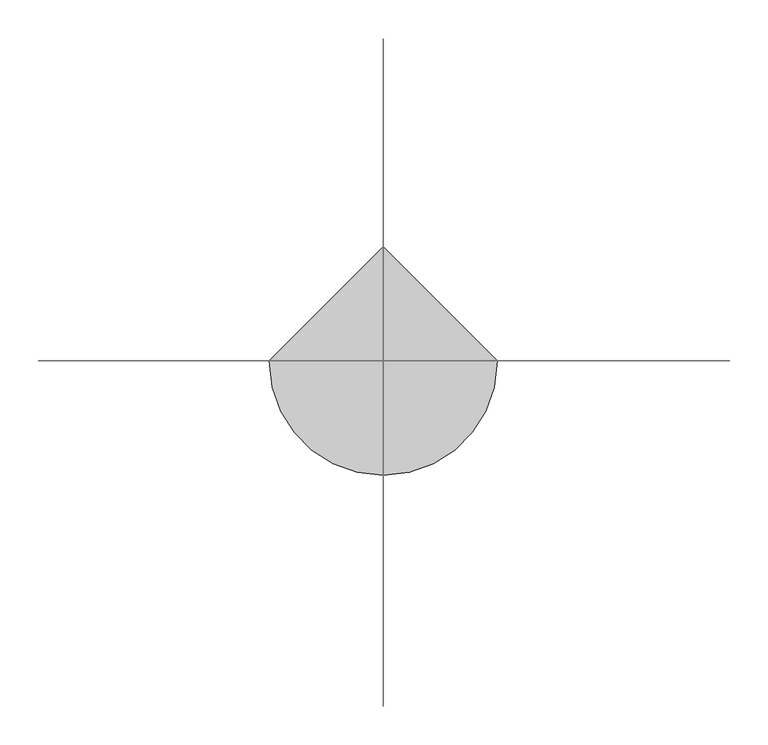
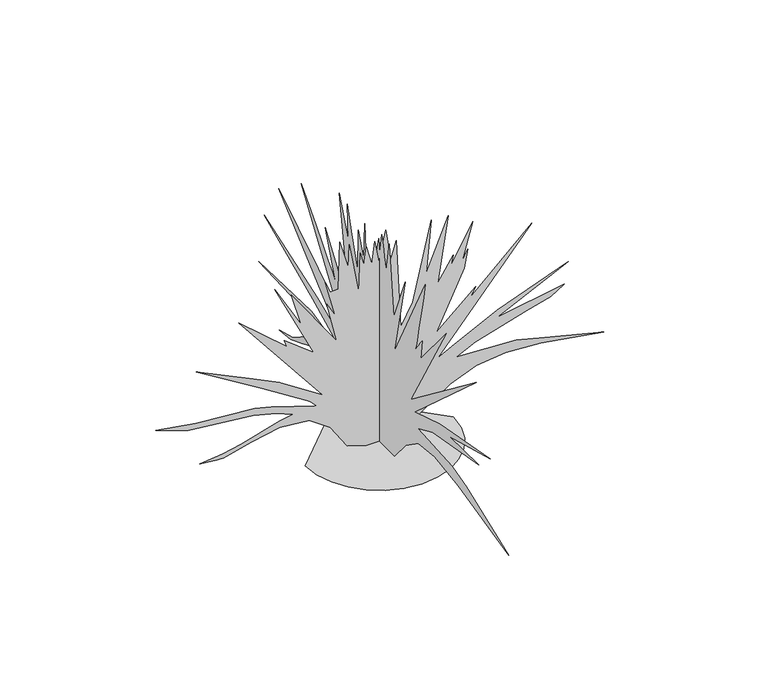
"""IFC4 building model written with IfcOpenShell, lengths in millimetres: geographic element geometry, RPC Vegetação - Tropical : Piteira - 0,45 metros."""

from ifc_helpers import new_model, si_unit, origin, place, context, project, spatial, triangles, source, transform, mapped, element, save


def geographic_element_1685f993(model_context):
    return source(origin(), model_context, "Body", "Tessellation", [
        triangles([(-148.1386958, 0.0, 9.3e-06), (-144.2171964, -33.9885277, 9.3e-06), (-133.048683, -65.2018023, 9.3e-06), (-115.5276685, -92.7450748, 9.3e-06), (-92.5484025, -115.7243407, 9.3e-06), (-65.0051301, -133.2453552, 9.3e-06), (-33.7918577, -144.4138686, 9.3e-06), (0.1966776, -148.335368, 9.3e-06), (34.1851976, -144.4138686, 9.3e-06), (65.3984745, -133.2453552, 9.3e-06), (92.941747, -115.7243407, 9.3e-06), (115.921013, -92.7450748, 9.3e-06), (133.4420274, -65.2018023, 9.3e-06), (144.6105409, -33.9885277, 9.3e-06), (148.5320402, 1.3e-05, 9.3e-06), (0.1966516, 148.335368, 9.3e-06), (-24.3504259, 1.1e-06, 2.5e-06), (-64.1988793, 2e-06, 12.9348607), (-97.895905, 5e-07, 64.0713026), (-140.594189, 5e-07, 94.1593235), (-198.9417449, 2.8e-06, 99.5475847), (-255.4485429, 5.9e-06, 87.7748204), (-311.5910826, 9.2e-06, 73.8080584), (-324.2335885, 9.8e-06, 74.3145591), (-359.378609, 1.11e-05, 77.950311), (-313.1035629, 8.8e-06, 82.7858171), (-277.6960585, 6.8e-06, 90.344322), (-199.7057426, 2e-06, 113.0485956), (-172.7469775, 5e-07, 117.942592), (-204.8844963, 1.2e-06, 130.9928583), (-252.5285358, 2.5e-06, 143.4918682), (-382.9561306, 7.4e-06, 157.5558808), (-447.8461741, 8.9e-06, 179.7488939), (-367.8611217, 6.2e-06, 166.4181305), (-249.0960418, 1.6e-06, 156.7231191), (-216.6905162, 6e-07, 148.7013704), (-125.4831837, -1.6e-06, 119.1546001), (-138.0646922, -1.9e-06, 133.1736118), (-234.3990283, -1.3e-06, 193.9569111), (-366.6486231, -4e-07, 275.4877267), (-252.1085396, -2.1e-06, 220.5199336), (-200.6204942, -2.9e-06, 195.5036553), (-113.3644194, -3.3e-06, 138.5448591), (-281.816065, -8.5e-06, 349.4127929), (-184.8657327, -7.8e-06, 265.7927153), (-189.7134928, -8.4e-06, 280.3352324), (-131.5426884, -8.2e-06, 234.2839372), (-209.1037518, -1.44e-05, 395.4653234), (-155.7804623, -1.12e-05, 302.1502526), (-176.3827294, -1.45e-05, 372.4403117), (-85.4908937, -1.07e-05, 242.7671948), (-104.8811618, -1.49e-05, 327.6002798), (-87.9146465, -1.39e-05, 297.3027469), (-108.5169137, -1.76e-05, 374.8628019), (-97.9506527, -1.66e-05, 351.3077717), (-81.76514, -1.74e-05, 351.3277923), (-79.4313889, -2.33e-05, 450.0003668), (-62.2313804, -2.06e-05, 390.7203006), (-60.0411253, -2.35e-05, 437.880358), (-40.6511115, -1.79e-05, 330.02277), (-38.2271089, -2.29e-05, 412.4328197), (-30.9558549, -2.16e-05, 384.5578134), (-26.1083514, -2.4e-05, 422.1278312), (-15.2013409, -2.2e-05, 380.9228245), (-9.1419117, -2.5e-05, 426.9753551), (-0.6586671, -2.27e-05, 380.9228245), (12.6721065, -2.7e-05, 443.9403442), (23.5791135, -2.35e-05, 377.2877993), (34.4861967, -2.62e-05, 413.6428476), (42.9694566, -1.54e-05, 227.0126877), (67.2069761, -1.91e-05, 271.8527196), (104.0335027, -3.03e-05, 433.0253491), (93.8687435, -2.34e-05, 323.9627475), (138.4672839, -3.17e-05, 430.0728404), (116.8945182, -2.27e-05, 294.8777314), (148.4037959, -2.69e-05, 343.3552774), (143.5562902, -2.54e-05, 321.5402573), (187.184323, -3.2e-05, 400.312811), (165.3703021, -2.65e-05, 322.7527559), (177.4890573, -2.84e-05, 345.7777677), (170.9330439, -2.58e-05, 308.0802504), (114.4707654, -1.64e-05, 190.6558953), (193.2438187, -2.4e-05, 260.9452096), (181.1248092, -2.22e-05, 240.3434511), (305.9494211, -3.46e-05, 355.4727791), (116.8945182, -1.32e-05, 136.120861), (156.175787, -1.61e-05, 155.588123), (236.8716063, -2.2e-05, 195.5036553), (378.6619886, -3.14e-05, 248.8267087), (235.6598525, -2.1e-05, 179.7488939), (371.0494809, -2.83e-05, 203.1156725), (343.871961, -2.62e-05, 186.8916447), (295.8769073, -2.33e-05, 173.2968894), (192.5770716, -1.7e-05, 143.7823665), (154.4632825, -1.42e-05, 125.2138505), (274.4393895, -1.91e-05, 119.1546001), (331.2944584, -2.07e-05, 104.4295814), (450.1645283, -2.41e-05, 74.3145591), (324.0894476, -1.98e-05, 94.6895782), (253.5743659, -1.7e-05, 99.5105775), (194.5445751, -1.4e-05, 92.6238249), (142.6707883, -1.05e-05, 72.2130568), (85.3409936, -5.7e-06, 33.5950265), (32.7349455, -1.4e-06, 0.0), (0.196672, 19.7673413, 8.9e-06), (0.1966732, 47.0472873, 9.8e-06), (0.1966747, 67.3315551, 19.7666418), (0.1966772, 98.1250789, 58.1885449), (0.1966793, 130.6278551, 79.4465678), (0.1966812, 171.5303912, 83.5105639), (0.1966824, 205.2991693, 71.7218077), (0.1966844, 267.9552104, 45.114788), (0.1966857, 307.0702466, 29.8075238), (0.1966874, 347.7627846, 24.6271691), (0.1966857, 300.5702436, 38.2485329), (0.1966843, 245.8184439, 73.6468083), (0.1966827, 196.7091595, 96.1225757), (0.196681, 158.7086266, 94.9168263), (0.1966826, 185.5584048, 108.6283349), (0.1966859, 252.0827055, 120.1018443), (0.1966936, 419.0128324, 127.5108488), (0.1966855, 235.0574365, 132.4853544), (0.1966818, 162.3476305, 116.8738436), (0.1966792, 117.5043466, 94.9168263), (0.1966819, 157.4268734, 125.6566015), (0.1966862, 230.1374425, 162.6691225), (0.196696, 399.8753377, 236.7079353), (0.1966859, 214.4554237, 174.9013882), (0.1966819, 145.377618, 145.8161177), (0.1966963, 348.9752832, 323.9627475), (0.1966833, 143.900864, 195.427915), (0.1966945, 270.2027113, 382.1353231), (0.1966926, 244.8639419, 353.83527), (0.1966907, 220.4639232, 326.4102725), (0.1966889, 197.940407, 300.737748), (0.1966873, 178.2316355, 277.6927156), (0.196686, 162.2761232, 258.1477059), (0.1966851, 151.0121214, 242.9834425), (0.1966845, 145.377618, 233.0721834), (0.1966896, 187.793897, 339.7177814), (0.196686, 146.5683701, 279.2777206), (0.1966856, 142.6428648, 273.9577147), (0.1966852, 137.8938633, 268.4452241), (0.1966848, 132.4583575, 262.7727143), (0.1966844, 126.4736029, 256.975212), (0.1966839, 120.0768458, 251.0802049), (0.1966835, 113.405596, 245.1219566), (0.196683, 106.5973361, 239.1316973), (0.1966904, 138.1063594, 442.7278456), (0.1966867, 107.8090899, 361.5328016), (0.196689, 111.4448418, 435.4578678), (0.196687, 96.9023247, 386.9828107), (0.1966838, 73.8763092, 315.4802711), (0.1966864, 72.6643101, 403.9478362), (0.196684, 54.4860456, 353.0502889), (0.1966862, 50.8502891, 430.6103439), (0.1966844, 46.5152885, 378.1328058), (0.1966819, 26.6125221, 322.7527559), (0.1966839, 1.1628534, 429.3978453), (0.1966829, -1.2609561, 399.1003123), (0.1966839, -8.4154066, 443.3628722), (0.1966833, -11.789735, 429.27536), (0.1966828, -15.0040374, 415.6178361), (0.1966823, -17.8983397, 402.817818), (0.1966818, -20.312591, 391.3078011), (0.1966815, -22.0867923, 381.5153028), (0.1966812, -23.0609175, 373.8703116), (0.196681, -23.0749678, 368.8028157), (0.1966826, -33.9820282, 439.0928567), (0.1966776, -49.7365399, 293.6677398), (0.1966787, -90.9408244, 393.0428332), (0.1966754, -52.1602928, 222.165182), (0.1966767, -160.0183758, 429.3978453), (0.1966761, -153.4961177, 397.6378289), (0.1966754, -147.1613663, 367.0353001), (0.1966749, -141.2021097, 338.7452754), (0.1966744, -135.8058639, 313.9252424), (0.196674, -131.1606078, 293.7327431), (0.1966737, -127.4541026, 279.3227215), (0.1966736, -124.8736006, 271.8527196), (0.1966736, -124.0245972, 269.8952265), (0.1966736, -125.1655977, 270.9177113), (0.1966735, -127.9646002, 274.4252189), (0.1966735, -132.090611, 279.9202323), (0.1966735, -137.211365, 286.9052347), (0.1966735, -142.995614, 294.8852345), (0.1966734, -149.1113744, 303.3627512), (0.1966725, -143.0521149, 262.1577082), (0.1966717, -232.7319426, 370.0153144), (0.1966708, -109.1190844, 155.5111291), (0.1966659, -335.7427697, 328.8102714), (0.1966697, -122.4498477, 136.1211063), (0.1966666, -209.7059134, 163.9943868), (0.1966597, -385.1278004, 196.2989011), (0.196665, -242.426954, 157.9348729), (0.1966604, -345.9302656, 160.358871), (0.1966667, -186.3451482, 131.3988564), (0.1966683, -133.3568582, 108.2475896), (0.1966628, -253.3352089, 100.9760858), (0.1966602, -301.8102479, 87.6453225), (0.1966519, -448.4478453, 30.686524), (0.196661, -273.6277203, 71.7218077), (0.196665, -192.0614054, 83.6695659), (0.1966673, -135.4426139, 77.7298121), (0.1966684, -92.7000739, 48.0972868), (0.1966688, -51.7737929, 6.8e-06), (0.1966702, -18.8243404, 7.8e-06)], [[15, 16, 1], [14, 15, 1], [14, 1, 2], [13, 14, 2], [13, 2, 3], [13, 3, 4], [12, 13, 4], [11, 12, 4], [11, 4, 5], [11, 5, 6], [11, 6, 7], [11, 7, 8], [11, 8, 9], [11, 9, 10], [47, 48, 49], [97, 98, 99], [88, 89, 90], [39, 40, 41], [84, 85, 86], [71, 72, 73], [53, 54, 55], [32, 33, 34], [43, 44, 45], [24, 25, 26], [58, 59, 60], [77, 78, 79], [73, 74, 75], [60, 61, 62], [51, 52, 53], [56, 57, 58], [82, 83, 84], [79, 80, 81], [64, 65, 66], [49, 50, 51], [68, 69, 70], [75, 76, 77], [90, 91, 92], [90, 92, 93], [66, 67, 68], [82, 84, 86], [90, 93, 94], [62, 63, 64], [47, 49, 51], [39, 41, 42], [45, 46, 47], [43, 45, 47], [38, 39, 42], [38, 42, 43], [31, 32, 34], [31, 34, 35], [23, 24, 26], [56, 58, 60], [87, 88, 90], [87, 90, 94], [87, 94, 95], [37, 38, 43], [86, 87, 95], [71, 73, 75], [96, 97, 99], [96, 99, 100], [95, 96, 100], [95, 100, 101], [95, 101, 102], [53, 55, 56], [53, 56, 60], [22, 23, 26], [22, 26, 27], [22, 27, 28], [21, 22, 28], [60, 62, 64], [43, 47, 51], [30, 31, 35], [30, 35, 36], [30, 36, 37], [29, 30, 37], [86, 95, 102], [21, 28, 29], [20, 21, 29], [20, 29, 37], [19, 20, 37], [86, 102, 103], [66, 68, 70], [64, 66, 70], [60, 64, 70], [53, 60, 70], [51, 53, 70], [43, 51, 70], [77, 79, 81], [77, 81, 82], [75, 77, 82], [71, 75, 82], [70, 71, 82], [70, 82, 86], [43, 70, 86], [43, 86, 103], [43, 103, 104], [43, 104, 17], [43, 17, 18], [43, 18, 19], [43, 19, 37], [120, 121, 122], [193, 194, 195], [190, 191, 192], [126, 127, 128], [155, 156, 157], [131, 132, 133], [200, 201, 202], [113, 114, 115], [195, 196, 197], [129, 130, 131], [131, 133, 134], [170, 171, 172], [188, 189, 190], [131, 134, 135], [148, 149, 150], [139, 140, 141], [131, 135, 136], [150, 151, 152], [168, 169, 170], [172, 173, 174], [131, 136, 137], [158, 159, 160], [172, 174, 175], [131, 137, 138], [153, 154, 155], [131, 138, 139], [172, 175, 176], [160, 161, 162], [172, 176, 177], [186, 187, 188], [172, 177, 178], [112, 113, 115], [112, 115, 116], [111, 112, 116], [111, 116, 117], [160, 162, 163], [172, 178, 179], [172, 179, 180], [172, 180, 181], [139, 141, 142], [193, 195, 197], [185, 186, 188], [192, 193, 197], [192, 197, 198], [155, 157, 158], [150, 152, 153], [148, 150, 153], [139, 142, 143], [199, 200, 202], [119, 120, 122], [119, 122, 123], [118, 119, 123], [199, 202, 203], [198, 199, 203], [198, 203, 204], [184, 185, 188], [110, 111, 117], [110, 117, 118], [109, 110, 118], [160, 163, 164], [118, 123, 124], [109, 118, 124], [139, 143, 144], [125, 126, 128], [125, 128, 129], [183, 184, 188], [139, 144, 145], [153, 155, 158], [108, 109, 124], [139, 145, 146], [160, 164, 165], [158, 160, 165], [158, 165, 166], [158, 166, 167], [158, 167, 168], [158, 168, 170], [182, 183, 188], [124, 125, 129], [182, 188, 190], [181, 182, 190], [172, 181, 190], [139, 146, 147], [131, 139, 147], [131, 147, 148], [158, 170, 172], [153, 158, 172], [148, 153, 172], [198, 204, 205], [131, 148, 172], [129, 131, 172], [124, 129, 172], [124, 172, 190], [108, 124, 190], [107, 108, 190], [106, 107, 190], [105, 106, 190], [207, 105, 190], [206, 207, 190], [205, 206, 190], [198, 205, 190], [192, 198, 190]], closed=False),
    ])


if __name__ == "__main__":
    model = new_model("IFC4")
    model_context = context("Model", 3, world=origin())
    ifc_project = project(units=[si_unit("LENGTHUNIT", "METRE", prefix="MILLI")], contexts=[model_context])
    site = spatial("IfcSite", under=ifc_project)
    building = spatial("IfcBuilding", under=site)
    placement = place(None, origin())
    geographic_element_shape = geographic_element_1685f993(model_context)
    element("IfcGeographicElement", 1, ObjectType="RPC Vegetação - Tropical : Piteira - 0,45 metros", at=placement, inside=building, context=model_context, shape_type="MappedRepresentation", body=[
        mapped(geographic_element_shape, transform((0.0, 0.0, 0.0), x_axis=(1.0, 0.0, 0.0), y_axis=(0.0, 1.0, 0.0), z_axis=(0.0, 0.0, 1.0))),
    ])
    save(model, "model.ifc")
